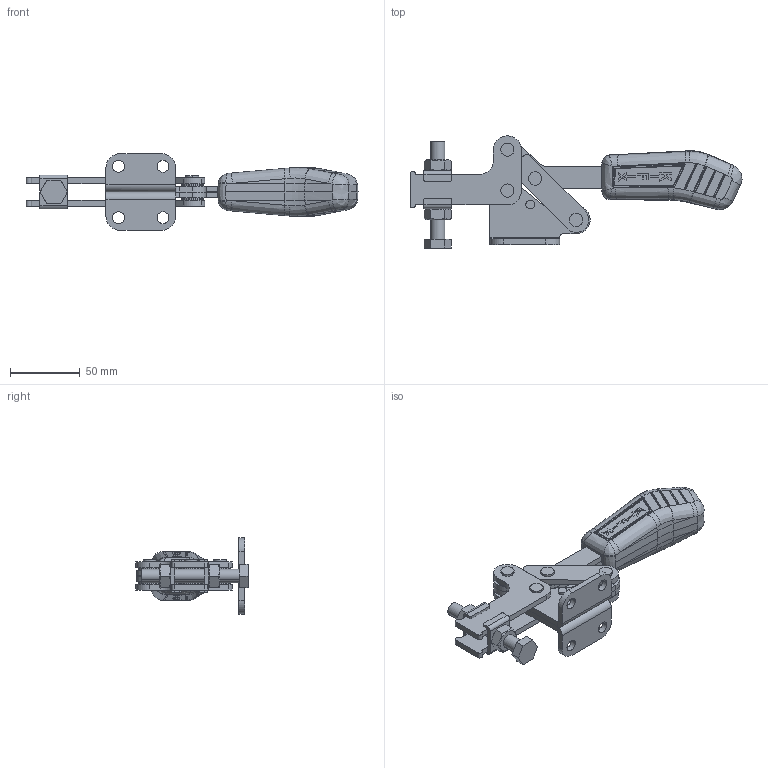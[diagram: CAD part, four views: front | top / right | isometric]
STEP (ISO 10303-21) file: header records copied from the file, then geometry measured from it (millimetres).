
FILE_DESCRIPTION (( 'STEP AP203' ), '1' );
FILE_NAME ('KF-531 D.STEP', '2014-08-18T14:08:28', ( 'Ricardo' ), ( '' ), 'SwSTEP 2.0', 'SolidWorks 2013', '' );
FILE_SCHEMA (( 'CONFIG_CONTROL_DESIGN' ));
Length unit declared in the file: millimetre
Products named in the file (13): 01.10043; 3670000087; 03.13018; 08.10008; 06.50026; 07.60002; 14.10003; 12.50021; 02.12035_Direita; KF-531 D; 11.50003; 02.12035_Esquerda; 17.50002
Assembly tree (27 placements, depth 2):
  KF-531 D
    02.12035_Direita
    02.12035_Esquerda
    01.10043  x2
    03.13018  x2
    08.10008  x2
    06.50026  x4
    07.60002
    14.10003  x2
    12.50021
    11.50003  x2
    17.50002  x8
    3670000087
Bounding box: 238.69 x 80.75 x 55 mm (x, y, z)
Volume: 177096.7 mm3; surface area: 77107.8 mm2
Topology: 27 solids, 27 shells, 809 faces, 1970 edges, 1225 vertices
Faces by surface type: plane 273, cylinder 230, bspline 159, cone 92, sphere 52, torus 3
Entity records: 23452 total; most frequent: CARTESIAN_POINT 8867, ORIENTED_EDGE 2926, DIRECTION 2282, EDGE_CURVE 1463, VERTEX_POINT 924, AXIS2_PLACEMENT_3D 872, EDGE_LOOP 651, ADVANCED_FACE 587
